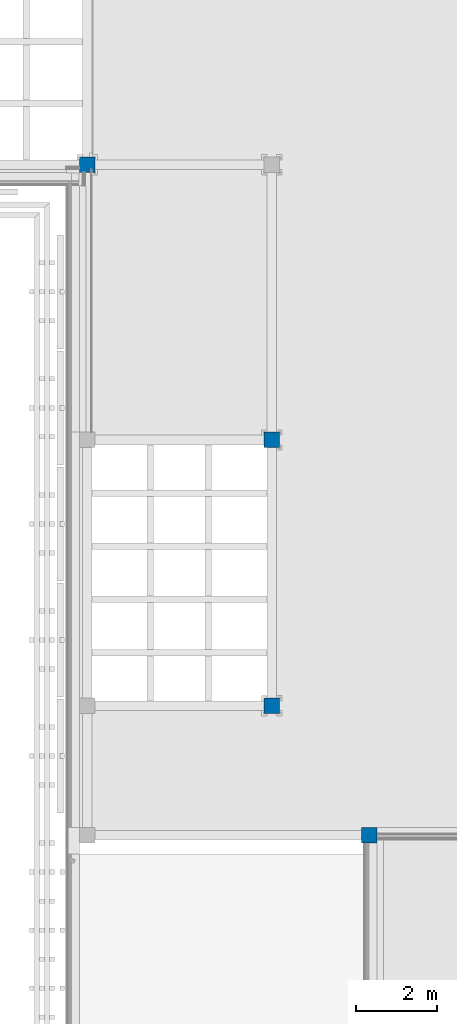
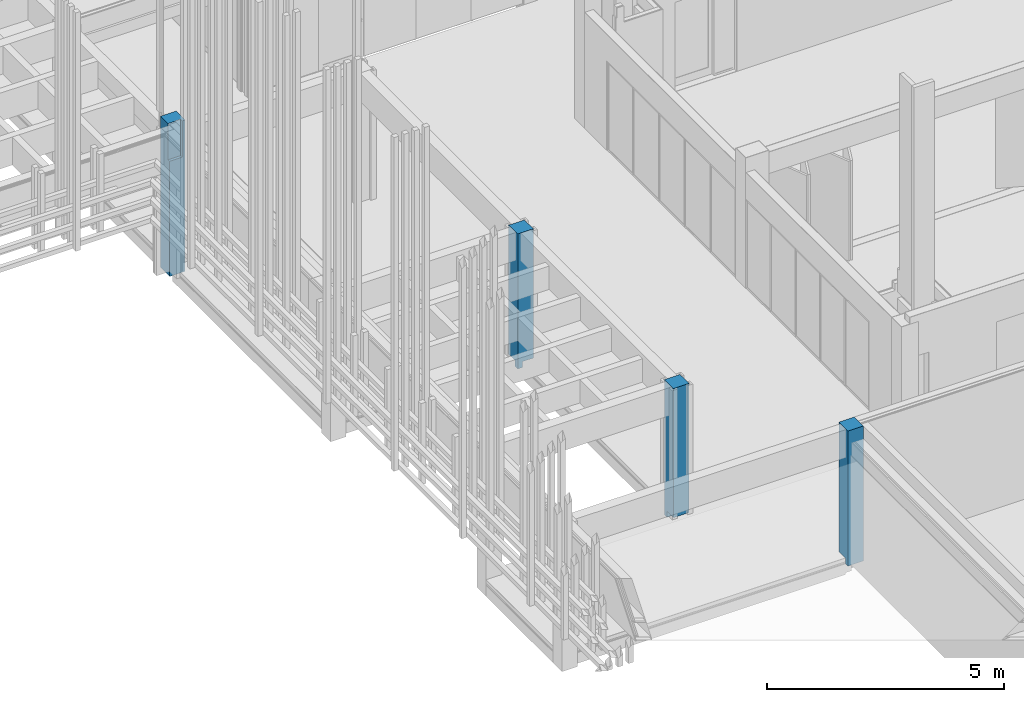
# One storey, part 32 of 139: 4 columns.
"""IFC2X3 building model written with IfcOpenShell, lengths in millimetres."""

from ifc_helpers import new_model, entity, si_unit, converted_unit, derived_unit, money_unit, direction, frame, origin_with_axes, place, context, subcontext, project, spatial, faceted_brep, material, type_object, element, save


model = new_model("IFC2X3")

# Units and contexts
model_context = context("Model", 3, precision=0.01, world=origin_with_axes(), true_north=direction((0.0, 1.0)))
body_context = subcontext(model_context, "Body", "Model", "MODEL_VIEW")
ifc_project = project(units=[si_unit("LENGTHUNIT", "METRE", prefix="MILLI"), si_unit("AREAUNIT", "SQUARE_METRE"), si_unit("VOLUMEUNIT", "CUBIC_METRE"), converted_unit("PLANEANGLEUNIT", "DEGREE", entity("IfcPlaneAngleMeasure", 0.0174532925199), si_unit("PLANEANGLEUNIT", "RADIAN"), dimensions=[0, 0, 0, 0, 0, 0, 0]), money_unit("EUR"), converted_unit("TIMEUNIT", "Year", entity("IfcTimeMeasure", 31556926.0), si_unit("TIMEUNIT", "SECOND"), dimensions=[0, 0, 1, 0, 0, 0, 0]), si_unit("MASSUNIT", "GRAM", prefix="KILO"), si_unit("THERMODYNAMICTEMPERATUREUNIT", "DEGREE_CELSIUS"), si_unit("LUMINOUSINTENSITYUNIT", "LUMEN"), si_unit("ENERGYUNIT", "JOULE", prefix="MEGA"), derived_unit("THERMALCONDUCTANCEUNIT", [(si_unit("POWERUNIT", "WATT"), 1), (si_unit("LENGTHUNIT", "METRE"), -1), (si_unit("THERMODYNAMICTEMPERATUREUNIT", "KELVIN"), -1)]), derived_unit("SPECIFICHEATCAPACITYUNIT", [(si_unit("ENERGYUNIT", "JOULE"), 1), (si_unit("MASSUNIT", "GRAM", prefix="KILO"), -1), (si_unit("THERMODYNAMICTEMPERATUREUNIT", "KELVIN"), -1)]), derived_unit("MASSDENSITYUNIT", [(si_unit("MASSUNIT", "GRAM", prefix="KILO"), 1), (si_unit("VOLUMEUNIT", "CUBIC_METRE"), -1)])], contexts=[model_context])

# Site, building, storey
site_placement = place(None, origin_with_axes())
site = spatial("IfcSite", under=ifc_project, at=site_placement, Name="Kolde pst 67a", CompositionType="ELEMENT")
building_placement = place(site_placement, origin_with_axes())
building = spatial("IfcBuilding", under=site, at=building_placement, Name="Riigigümnaasium", CompositionType="ELEMENT")
storey_placement = place(building_placement, frame((0.0, 0.0, 4600.0), z_axis=(0.0, 0.0, 1.0), x_axis=(1.0, 0.0, 0.0)))
storey = spatial("IfcBuildingStorey", under=building, at=storey_placement, Name="2. korrus", CompositionType="ELEMENT", Elevation=4600.0)

# Columns
ifc_material = material(Name="_KANDETARIND - liimpuit vastavalt EK osale")
column_type = type_object("IfcColumnType", Name="_KANDETARIND - liimpuit vastavalt EK osale 380 x 380", PredefinedType="COLUMN")
column_1_placement = place(storey_placement, frame((48229.9854607, 24229.9965348, -290.0), z_axis=(0.0, 0.0, 1.0), x_axis=(1.0, 0.0, 0.0)))
element("IfcColumn", 1, at=column_1_placement, inside=storey, type_object=column_type, material=ifc_material, Name="POST", ObjectType="COLUMN", context=body_context, shape_type="Brep", body=[
    faceted_brep([(-190.0, -123.928630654, 3890.0), (-30.0, -123.928630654, 3890.0), (100.0, -123.928630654, 3890.0), (118.0, -123.928630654, 3890.0), (118.0, -190.0, 3890.0), (190.0, -190.0, 3890.0), (190.0, 190.0, 3890.0), (-190.0, 190.0, 3890.0), (-30.0, -123.928630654, 3610.0), (-190.0, -123.928630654, 3610.0), (100.0, -123.928630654, 3610.0), (118.0, -123.928630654, 3610.0), (118.0, -190.0, 2959.9994902), (118.0, -119.996562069, 3610.0), (118.0, -119.996562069, 2959.9994902), (100.0, -190.0, 2959.9994902), (-30.0, -190.0, 2959.9994902), (-190.0, -189.996562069, 2959.99949182), (-190.0, -190.0, 0.0), (190.0, -190.0, 0.0), (190.0, 190.0, 0.0), (-190.0, 190.0, 0.0), (-190.0, -119.996562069, 3610.0), (-190.0, -119.996562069, 2959.9994902), (-30.0, -119.996562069, 3610.0), (100.0, -119.996562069, 3610.0), (100.0, -119.996562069, 2959.9994902), (-30.0, -119.996562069, 2959.9994902)], [[[0, 1, 2, 3, 4, 5, 6, 7]], [[8, 1, 0, 9]], [[10, 2, 1, 8]], [[11, 3, 2, 10]], [[12, 4, 3, 11, 13, 14]], [[15, 16, 17, 18, 19, 5, 4, 12]], [[19, 20, 6, 5]], [[20, 21, 7, 6]], [[22, 9, 0, 7, 21, 18, 17, 23]], [[8, 9, 22, 24]], [[8, 24, 25, 10]], [[10, 25, 13, 11]], [[25, 26, 14, 13]], [[26, 15, 12, 14]], [[27, 16, 15, 26]], [[23, 17, 16, 27]], [[18, 21, 20, 19]], [[24, 22, 23, 27]], [[24, 27, 26, 25]]]),
])
column_2_placement = place(storey_placement, frame((52779.9941222, 10899.9619407, -150.0), z_axis=(0.0, 0.0, 1.0), x_axis=(1.0, 0.0, 0.0)))
element("IfcColumn", 2, at=column_2_placement, inside=storey, type_object=column_type, material=ifc_material, Name="POST", ObjectType="COLUMN", context=body_context, shape_type="Brep", body=[
    faceted_brep([(190.0, -190.0, 150.0), (190.0, 190.0, 150.0), (190.0, 190.0, 3470.0), (190.0, -190.0, 3470.0), (-80.0086330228, 190.0, 150.0), (-190.0, -190.0, 150.0), (-190.0, 80.038033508, 150.0), (-80.0086330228, 80.038033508, 150.0), (-80.0086330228, 190.0, 20.0), (-80.0086330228, 190.0, 0.0), (-190.0, 190.0, 0.0), (-190.0, 190.0, 3470.0), (-80.0086330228, 190.0, 147.0), (-80.0086330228, 190.0, 50.0), (-190.0, -190.0, 3470.0), (-190.0, 80.038033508, 0.0), (-190.0, 80.038033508, 20.0), (-190.0, 80.038033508, 50.0), (-190.0, 80.038033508, 147.0), (-80.0086330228, 80.038033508, 147.0), (-80.0086330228, 80.038033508, 20.0), (-80.0086330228, 80.038033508, 0.0), (-80.0086330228, 80.038033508, 50.0)], [[[0, 1, 2, 3]], [[4, 1, 0, 5, 6, 7]], [[8, 9, 10, 11, 2, 1, 4, 12, 13]], [[3, 2, 11, 14]], [[5, 0, 3, 14]], [[6, 5, 14, 11, 10, 15, 16, 17, 18]], [[6, 18, 19, 7]], [[12, 4, 7, 19]], [[9, 8, 20, 21]], [[21, 15, 10, 9]], [[13, 12, 19, 22]], [[8, 13, 22, 20]], [[16, 15, 21, 20]], [[17, 16, 20, 22]], [[18, 17, 22, 19]]]),
])
column_3_placement = place(storey_placement, frame((55179.9802711, 7710.0, -150.0), z_axis=(0.0, 0.0, 1.0), x_axis=(1.0, 0.0, 0.0)))
element("IfcColumn", 3, at=column_3_placement, inside=storey, type_object=column_type, material=ifc_material, Name="POST", ObjectType="COLUMN", context=body_context, shape_type="Brep", body=[
    faceted_brep([(190.002395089, -65.0, 147.0), (190.002395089, -65.0, 150.0), (190.002395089, 190.0, 150.0), (190.0, 190.0, 3470.0), (190.0, -190.0, 3470.0), (190.0, -190.0, 0.0), (190.001023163, -89.8455391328, 0.0), (190.001023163, -89.8455391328, 20.0), (190.0, -65.000000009, 20.0), (190.0, -65.0000000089, 50.0), (-39.997604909, -65.0008607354, 147.0), (-121.997604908, -65.0011676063, 147.0), (-121.997604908, -65.0011676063, 150.0), (-190.0, 190.0, 150.0), (-121.997511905, -89.852921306, 150.0), (-190.0, -89.8545303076, 150.0), (-190.0, 190.0, 3470.0), (-190.0, -190.0, 3470.0), (-190.0, -190.0, 0.0), (-190.0, -89.8545303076, 0.0), (-190.0, -89.8545303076, 20.0), (-39.9975119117, -89.8509811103, 20.0), (-39.997604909, -65.0008607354, 20.0), (-39.997604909, -65.0008607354, 50.0), (-39.9975119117, -89.8509811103, 147.0), (-121.997511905, -89.852921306, 147.0), (-190.0, -89.8545303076, 147.0), (-190.0, -89.8545303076, 50.0), (-39.9975119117, -89.8509811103, 50.0)], [[[0, 1, 2, 3, 4, 5, 6, 7, 8, 9]], [[1, 0, 10, 11, 12]], [[13, 2, 1, 12, 14, 15]], [[2, 13, 16, 3]], [[4, 3, 16, 17]], [[5, 4, 17, 18]], [[6, 5, 18, 19]], [[7, 6, 19, 20, 21]], [[8, 7, 21, 22]], [[9, 8, 22, 23]], [[0, 9, 23, 10]], [[10, 24, 25, 11]], [[14, 12, 11, 25]], [[26, 15, 14, 25]], [[20, 19, 18, 17, 16, 13, 15, 26, 27]], [[20, 27, 28, 21]], [[23, 22, 21, 28]], [[10, 23, 28, 24]], [[27, 26, 25, 24, 28]]]),
])
column_4_placement = place(storey_placement, frame((52779.9941032, 17449.9999742, -150.0), z_axis=(0.0, 0.0, 1.0), x_axis=(1.0, 0.0, 0.0)))
element("IfcColumn", 4, at=column_4_placement, inside=storey, type_object=column_type, material=ifc_material, Name="POST", ObjectType="COLUMN", context=body_context, shape_type="Brep", body=[
    faceted_brep([(190.0, -190.0, 150.0), (190.0, 190.0, 150.0), (190.0, 190.0, 3470.0), (190.0, -190.0, 3470.0), (-190.0, 190.0, 150.0), (-80.0086140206, -190.0, 150.0), (-80.0086140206, -80.0, 150.0), (-190.0, -80.0, 150.0), (-190.0, 190.0, 3470.0), (-190.0, -190.0, 3470.0), (-190.0, -190.0, 0.0), (-80.0086140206, -190.0, 0.0), (-80.0086140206, -190.0, 20.0), (-80.0086140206, -190.0, 50.0), (-80.0086140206, -190.0, 147.0), (-80.0086140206, -80.0, 147.0), (-190.0, -80.0, 147.0), (-190.0, -80.0, 20.0), (-190.0, -80.0, 0.0), (-190.0, -80.0, 50.0), (-80.0086140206, -80.0, 0.0), (-80.0086140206, -80.0, 20.0), (-80.0086140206, -80.0, 50.0)], [[[0, 1, 2, 3]], [[4, 1, 0, 5, 6, 7]], [[1, 4, 8, 2]], [[3, 2, 8, 9]], [[5, 0, 3, 9, 10, 11, 12, 13, 14]], [[5, 14, 15, 6]], [[16, 7, 6, 15]], [[17, 18, 10, 9, 8, 4, 7, 16, 19]], [[20, 11, 10, 18]], [[12, 11, 20, 21]], [[13, 12, 21, 22]], [[14, 13, 22, 15]], [[19, 16, 15, 22]], [[18, 17, 21, 20]], [[17, 19, 22, 21]]]),
])

save(model, "model.ifc")
